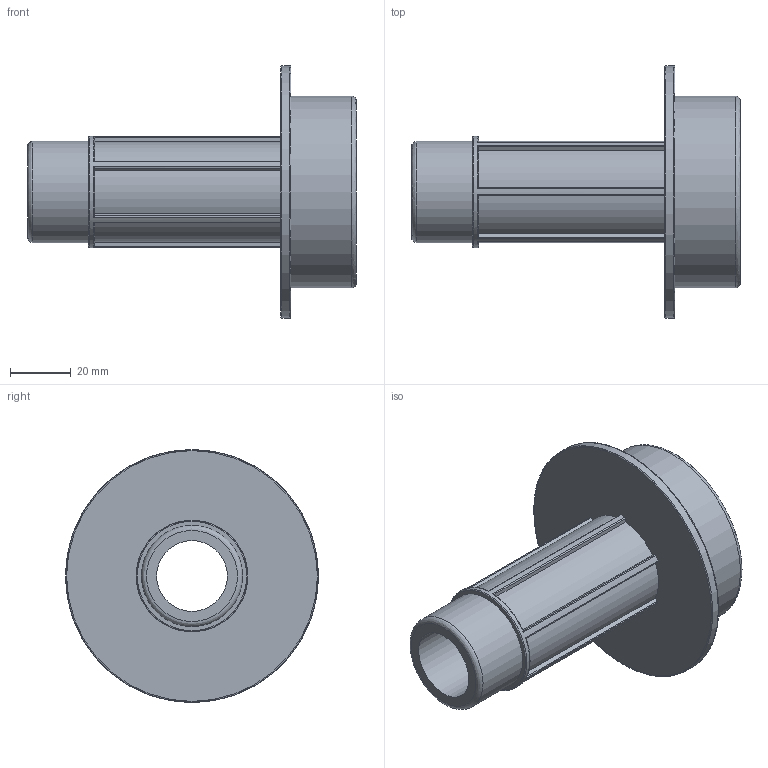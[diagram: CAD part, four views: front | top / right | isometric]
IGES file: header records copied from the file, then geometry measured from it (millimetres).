
Global section: file name: 078901063010.ipt; native system: Autodesk Inventor 2015; preprocessor: unknown; author: KIM; date: 20180409.130900; units: millimetre
Bounding box: 108 x 83 x 83 mm (x, y, z)
Volume: 112898.7 mm3; surface area: 32816.5 mm2
Topology: 1 solids, 1 shells, 57 faces, 163 edges, 111 vertices
Faces by surface type: plane 23, cylinder 22, revolution 12
Full cylindrical faces by diameter (mm): 33.249 x1, 36.574 x1, 63 x1, 83 x1
